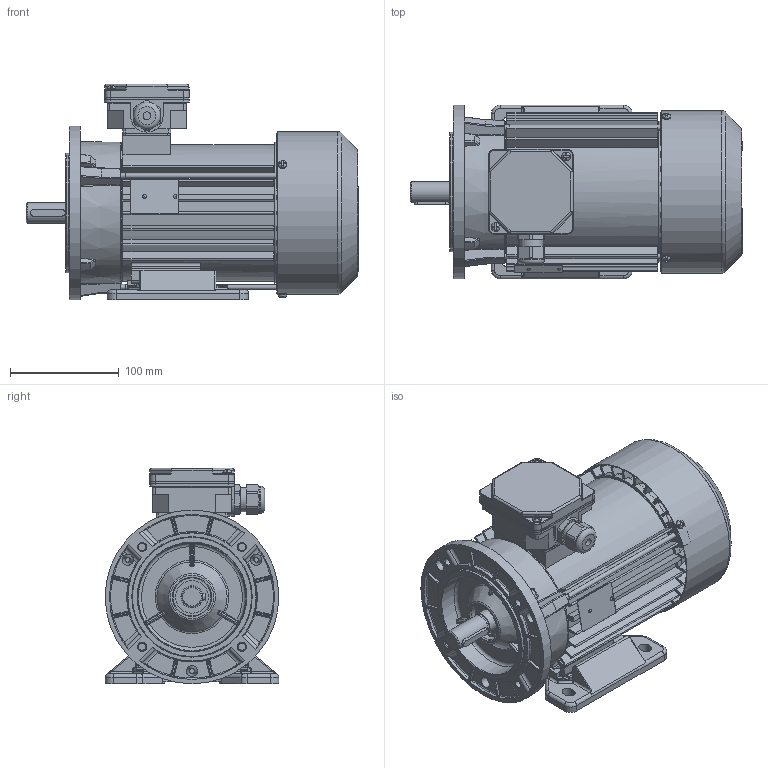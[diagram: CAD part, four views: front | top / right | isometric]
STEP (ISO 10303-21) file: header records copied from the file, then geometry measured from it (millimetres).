
FILE_DESCRIPTION( ( 'Unknown' ), '1' );
FILE_NAME( 'G:/Poczta Tk-1/STP/w.m.80/Sh80/SLh80x-.C1.stp', 'Unknown', ( 'K. Szlosek' ), ( 'BESEL S.A.' ), 'PSStep 17.0.49', 'Unknown', ' ' );
FILE_SCHEMA( ( 'AUTOMOTIVE_DESIGN { 1 0 10303 214 1 1 1 1 }' ) );
Length unit declared in the file: millimetre
Products named in the file (30): skrznka zaciskowa trójfazowa ; K4-2820 Uszczelka nr 2 Sh71,80; Dławnica M20x1,5; K2-0859 Podstawa skrzynki 6-cio zaciskowej; K2-0860 Pokrywka skrzynki zaciskowej; Assem1; K1-1257 Kadłub S(E,M)h80-C i D; K2-2027 Tarcza łożyskowa P S(E,M)h80-.A,C; Wkręt samogwintujący M4x16; Wkręt samogwintujący M4x10; K3-7039 wał standard Sh80-C; K4-4489 Osłona przewietrznika Sh80,90-A,C; K4-2320 Uszczelka nr 1 Sh71,80; Wpust A6x6x32; K2-1715 Przewietrznik; Nitokołek A 2x6; Łożysko 6204; Śruba ściągająca E_M5x168; Tabliczka znamionowa 32x44; K1-1259 Tarcza kołnierzowa 80 B14_1 ; K1-0437 Łapa Sh80-.. 
Assembly tree (45 placements, depth 3):
  Assem1
    K1-1257 Kadłub S(E,M)h80-C i D
    K2-2027 Tarcza łożyskowa P S(E,M)h80-.A,C
    Wkręt samogwintujący M4x16  x2
    Wkręt samogwintujący M4x10  x3
    K3-7039 wał standard Sh80-C
    K4-4489 Osłona przewietrznika Sh80,90-A,C
    K4-2320 Uszczelka nr 1 Sh71,80
    Wpust A6x6x32
    K2-1715 Przewietrznik
    Nitokołek A 2x6  x2
    Łożysko 6204  x2
    Łożysko 6204  x2
    Łożysko 6204  x2
    Łożysko 6204  x2
    Łożysko 6204  x2
    Łożysko 6204  x2
    Łożysko 6204  x2
    Łożysko 6204  x2
    Łożysko 6204  x2
    Łożysko 6204  x2
    Śruba ściągająca E_M5x168  x3
    Tabliczka znamionowa 32x44
    K1-1259 Tarcza kołnierzowa 80 B14_1 
    K1-0437 Łapa Sh80-.. 
    skrznka zaciskowa trójfazowa 
      K4-2820 Uszczelka nr 2 Sh71,80
      Dławnica M20x1,5
      K2-0859 Podstawa skrzynki 6-cio zaciskowej
      K2-0860 Pokrywka skrzynki zaciskowej
Bounding box: 305.8 x 160 x 198.5 mm (x, y, z)
Volume: 1151380.4 mm3; surface area: 627799.1 mm2
Topology: 44 solids, 60 shells, 3041 faces, 8198 edges, 5212 vertices
Faces by surface type: plane 1327, cylinder 938, bspline 411, torus 170, cone 153, sphere 42
Full cylindrical faces by diameter (mm): 2 x2, 2.4 x2, 3 x1, 3.7 x11, 4 x5, 4.2 x3, 4.5 x1, 4.6 x3, 4.8 x4, 5 x7, 5.5 x3, 6.5 x4, 6.8 x4, 7 x1, 8 x9, 18.376 x1, 18.38 x1, 18.6 x1, 19 x1, 19.3 x1, 19.5 x2, 19.9 x1, 20 x5, 20.3 x2, 20.4 x4, 22.3 x1, 25 x1, 25.5 x1, 25.65 x1, 26 x3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
Entity records: 171129 total; most frequent: CARTESIAN_POINT 80133, ORIENTED_EDGE 14780, DIRECTION 13692, EDGE_CURVE 7390, AXIS2_PLACEMENT_3D 5117, VERTEX_POINT 4865, LINE 3458, VECTOR 3458
